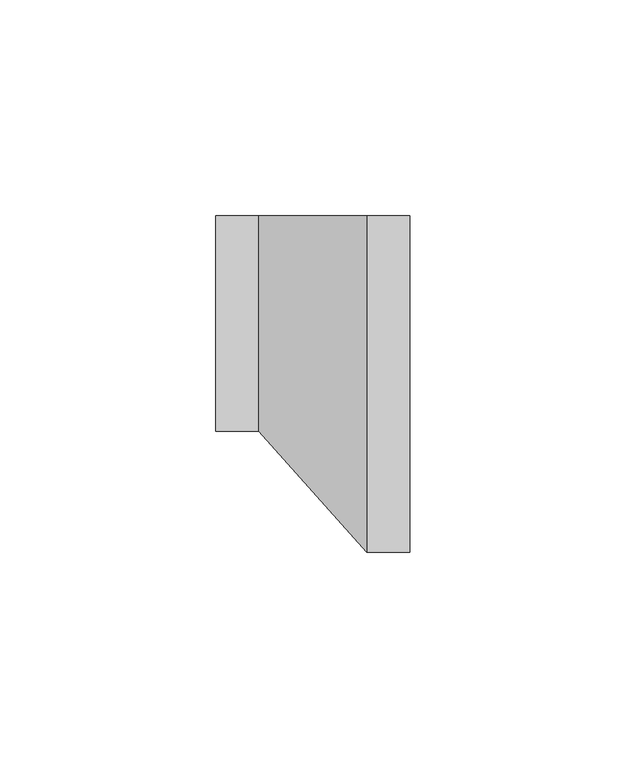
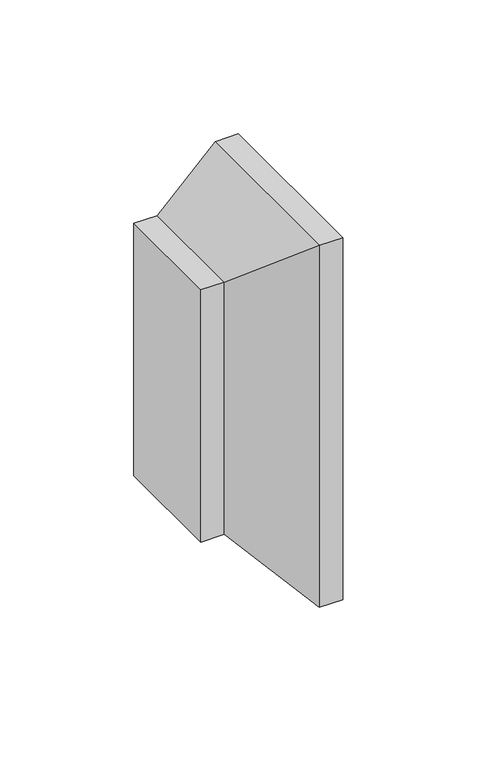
"""IFC4 building model written with IfcOpenShell, lengths in millimetres: duct fitting geometry, КНС_ВводВСтену_DKC : Ввод в стену."""

from ifc_helpers import new_model, si_unit, origin, place, context, project, spatial, faceted_brep, source, transform, mapped, element, save


def duct_fitting_e6dbaeff(model_context):
    return source(origin(), model_context, "Body", "Brep", [
        faceted_brep([(20.1665888, -40.0757244, 57.5), (45.1665888, -68.0757244, 82.5), (45.1665888, 9.9242756, 82.5), (20.1665888, 9.9242756, 57.5), (20.1665888, -40.0757244, -57.5), (45.1665888, -68.0757244, -82.5), (20.1665888, 9.9242756, -57.5), (45.1665888, 9.9242756, -82.5), (55.1665888, 9.9242756, 82.5), (55.1665888, 9.9242756, -82.5), (10.1665888, 9.9242756, -57.5), (10.1665888, 9.9242756, 57.5), (10.1665888, -40.0757244, -57.5), (10.1665888, -40.0757244, 57.5), (55.1665888, -68.0757244, 82.5), (55.1665888, -68.0757244, -82.5)], [[[0, 1, 2, 3]], [[1, 0, 4, 5]], [[5, 4, 6, 7]], [[3, 2, 8, 9, 7, 6, 10, 11]], [[12, 4, 0, 13]], [[4, 12, 10, 6]], [[13, 0, 3, 11]], [[12, 13, 11, 10]], [[1, 14, 8, 2]], [[7, 9, 15, 5]], [[14, 1, 5, 15]], [[8, 14, 15, 9]]]),
    ])


if __name__ == "__main__":
    model = new_model("IFC4")
    model_context = context("Model", 3, world=origin())
    ifc_project = project(units=[si_unit("LENGTHUNIT", "METRE", prefix="MILLI")], contexts=[model_context])
    site = spatial("IfcSite", under=ifc_project)
    building = spatial("IfcBuilding", under=site)
    placement = place(None, origin())
    duct_fitting_shape = duct_fitting_e6dbaeff(model_context)
    element("IfcDuctFitting", 1, ObjectType="КНС_ВводВСтену_DKC : Ввод в стену", at=placement, inside=building, context=model_context, shape_type="MappedRepresentation", body=[
        mapped(duct_fitting_shape, transform((0.0, 0.0, 0.0), x_axis=(1.0, 0.0, 0.0), y_axis=(0.0, 1.0, 0.0), z_axis=(0.0, 0.0, 1.0))),
    ])
    save(model, "model.ifc")
